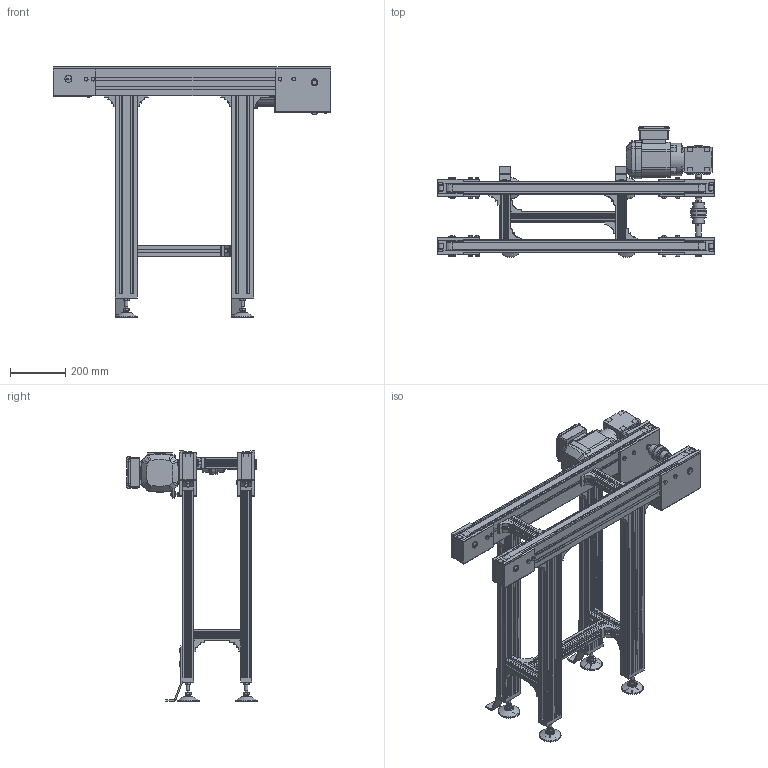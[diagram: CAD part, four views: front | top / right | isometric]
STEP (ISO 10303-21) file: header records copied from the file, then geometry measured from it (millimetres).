
FILE_DESCRIPTION(/* description */ (''),/* implementation_level */ '2;1');
FILE_NAME(/* name */ 'C:\Marketing\01_Versamove-SPU_STEP-Dateien-Homepage\VersamoveStandard\B240\STEP-Dateien\Zahnriemenförderer_Standard_B240_L1000.stp',/* time_stamp */ '2016-12-15T10:39:31+01:00',/* author */ ('herbert.engels'),/* organization */ (''),/* preprocessor_version */ 'ST-DEVELOPER v15.6',/* originating_system */ 'Autodesk Inventor 2015',/* authorisation */ '');
FILE_SCHEMA (('CONFIG_CONTROL_DESIGN'));
Products named in the file (1): Zahnriemenförderer_Standard_B240_L1000
Bounding box: 1000 x 470.57 x 905 mm (x, y, z)
Volume: 18278273.5 mm3; surface area: 4289239.6 mm2
Topology: 5 solids, 5 shells, 4314 faces, 11787 edges, 7604 vertices
Faces by surface type: plane 2731, cylinder 1180, cone 237, torus 106, sphere 44, bspline 16
Full cylindrical faces by diameter (mm): 2 x2, 6 x2, 6.314 x1, 7.323 x17, 8 x81, 9 x8, 10.066 x1, 11.4 x21, 12 x8, 13 x36, 13.6 x2, 14 x40, 15 x8, 18 x4, 19 x4, 19.77 x4, 20 x13, 25 x1, 25.05 x4, 28 x1, 30 x2, 40 x2, 53 x1, 54 x2, 56 x3, 79 x4, 117 x1
Entity records: 141030 total; most frequent: CARTESIAN_POINT 28304, ORIENTED_EDGE 22508, DIRECTION 22045, EDGE_CURVE 11253, LINE 7641, VECTOR 7641, VERTEX_POINT 7460, AXIS2_PLACEMENT_3D 7202
